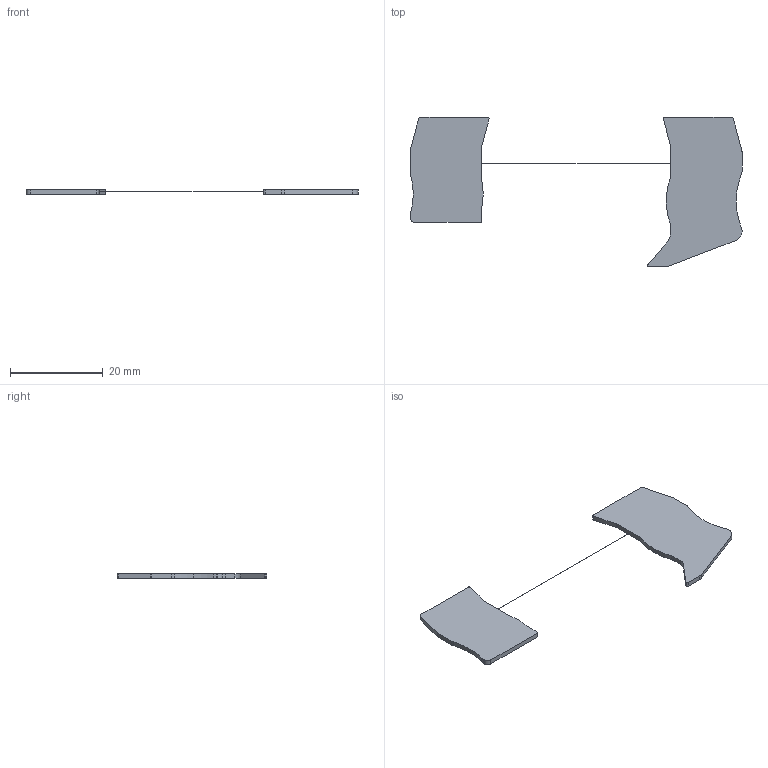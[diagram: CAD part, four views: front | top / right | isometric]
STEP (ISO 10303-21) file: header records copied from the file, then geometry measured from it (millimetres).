
FILE_DESCRIPTION(('OneSpaceDesigner STEP Export'),'2;1');
FILE_NAME('3036615_ds-st_4-select.stp','2005-12-12T 9:15:49',(''),(''),'OneSpace Designer STEP processor for AP203 (Solid Model)','OneSpace Designer 13.01 05-Feb-2005 (C) CoCreate Software GmbH','');
FILE_SCHEMA(('CONFIG_CONTROL_DESIGN'));
Length unit declared in the file: millimetre
Products named in the file (2): 3036615_ds-st_4-select
Assembly tree (1 placements, depth 2):
  3036615_ds-st_4-select
    3036615_ds-st_4-select
Bounding box: 71.5 x 32.25 x 1 mm (x, y, z)
Volume: 801.6 mm3; surface area: 1777.2 mm2
Topology: 1 solids, 1 shells, 59 faces, 165 edges, 110 vertices
Faces by surface type: cylinder 33, plane 26
Entity records: 2509 total; most frequent: ORIENTED_EDGE 330, CARTESIAN_POINT 314, DIRECTION 309, EDGE_CURVE 165, VERTEX_POINT 110, AXIS2_PLACEMENT_3D 105, VECTOR 99, LINE 99
